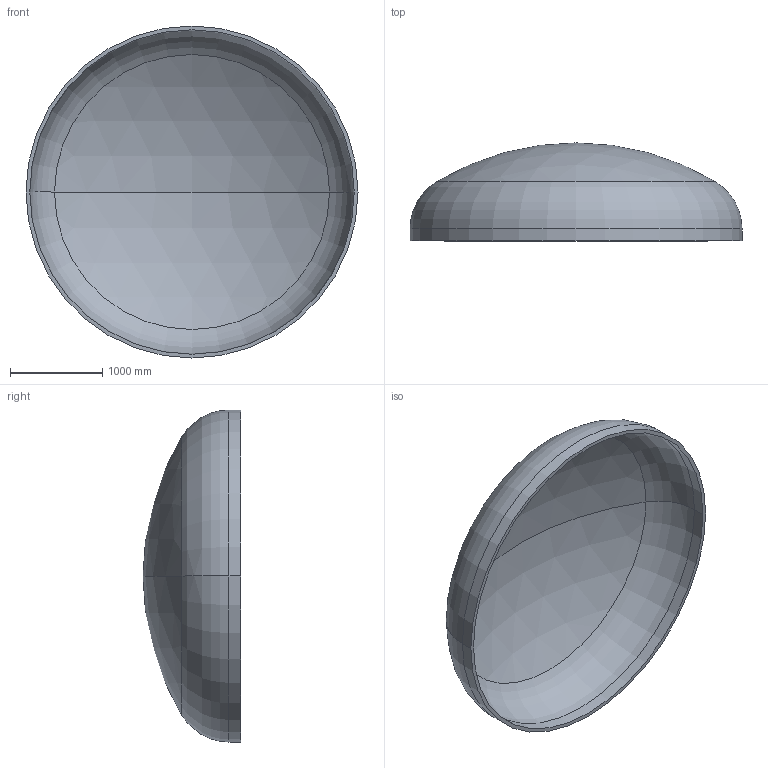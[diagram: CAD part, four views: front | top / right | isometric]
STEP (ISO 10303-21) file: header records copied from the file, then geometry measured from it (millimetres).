
FILE_DESCRIPTION (( 'STEP AP203' ), '1' );
FILE_NAME ('DIN 28013 Korbbogenform_-_Boden DIN 28013 - 3600 x 130 - I - s=41.step', '2016-07-01T20:25:20', ( '' ), ( '' ), 'SwSTEP 2.0', 'SolidWorks 2013', '' );
FILE_SCHEMA (( 'CONFIG_CONTROL_DESIGN' ));
Length unit declared in the file: millimetre
Products named in the file (1): DIN 28013 Korbbogenform_-_Boden DIN 28013 - 3600 x 130 - I - s=41
Bounding box: 3600 x 1062.03 x 3600 mm (x, y, z)
Volume: 629070921.1 mm3; surface area: 31148314.1 mm2
Topology: 1 solids, 1 shells, 13 faces, 24 edges, 14 vertices
Faces by surface type: torus 4, cylinder 4, sphere 4, plane 1
Entity records: 407 total; most frequent: DIRECTION 72, CARTESIAN_POINT 52, ORIENTED_EDGE 48, AXIS2_PLACEMENT_3D 34, EDGE_CURVE 24, CIRCLE 20, VERTEX_POINT 14, EDGE_LOOP 14
